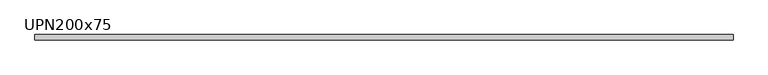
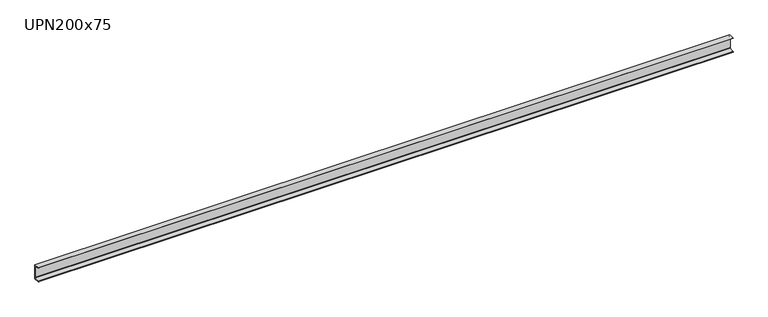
"""IFC4 building model written with IfcOpenShell, lengths in millimetres: beam geometry, M_MC Shapes : UPN200x75."""

from ifc_helpers import new_model, si_unit, point, frame, frame_2d, origin, place, context, project, spatial, polyline, circle_curve, trimmed, segment, composite_curve, outline, extrude, source, transform, mapped, element, save


def upn200x75_a6df8eeb(model_context):
    return source(origin(), model_context, "Body", "SweptSolid", [
        extrude(outline(composite_curve([segment(polyline([(10.9, 100.0), (10.9, -100.0), (-64.1, -100.0), (-64.1, -99.0253247)]), True, "CONTINUOUS"), segment(trimmed(circle_curve(frame_2d((-60.15, -99.0253247)), 3.95), [point((-64.1, -99.0253247))], [point((-60.7993773, -95.1290689))], False, "CARTESIAN"), True, "CONTINUOUS"), segment(polyline([(-60.7993773, -95.1290689), (-0.2512455, -85.0376935)]), True, "CONTINUOUS"), segment(trimmed(circle_curve(frame_2d((-1.55, -77.2451819)), 7.9), [point((-0.2512455, -85.0376935))], [point((6.35, -77.2451819))], True, "CARTESIAN"), True, "CONTINUOUS"), segment(polyline([(6.35, -77.2451819), (6.35, 77.2451819)]), True, "CONTINUOUS"), segment(trimmed(circle_curve(frame_2d((-1.55, 77.2451819)), 7.9), [point((6.35, 77.2451819))], [point((-0.2512455, 85.0376935))], True, "CARTESIAN"), True, "CONTINUOUS"), segment(polyline([(-0.2512455, 85.0376935), (-60.7993773, 95.1290689)]), True, "CONTINUOUS"), segment(trimmed(circle_curve(frame_2d((-60.15, 99.0253247)), 3.95), [point((-60.7993773, 95.1290689))], [point((-64.1, 99.0253247))], False, "CARTESIAN"), True, "CONTINUOUS"), segment(polyline([(-64.1, 99.0253247), (-64.1, 100.0), (10.9, 100.0)]), True, "CONTINUOUS")], self_intersect=False)), frame((-4575.2, 0.0, 0.0), z_axis=(1.0, 0.0, 0.0), x_axis=(0.0, 1.0, 0.0)), (0.0, 0.0, 1.0), 9388.1),
    ])


if __name__ == "__main__":
    model = new_model("IFC4")
    model_context = context("Model", 3, world=origin())
    ifc_project = project(units=[si_unit("LENGTHUNIT", "METRE", prefix="MILLI")], contexts=[model_context])
    site = spatial("IfcSite", under=ifc_project)
    building = spatial("IfcBuilding", under=site)
    placement = place(None, origin())
    upn200x75_shape = upn200x75_a6df8eeb(model_context)
    element("IfcBeam", 1, ObjectType="M_MC Shapes : UPN200x75", at=placement, inside=building, context=model_context, shape_type="MappedRepresentation", body=[
        mapped(upn200x75_shape, transform((0.0, 0.0, 0.0), x_axis=(1.0, 0.0, 0.0), y_axis=(0.0, 1.0, 0.0), z_axis=(0.0, 0.0, 1.0))),
    ])
    save(model, "model.ifc")
